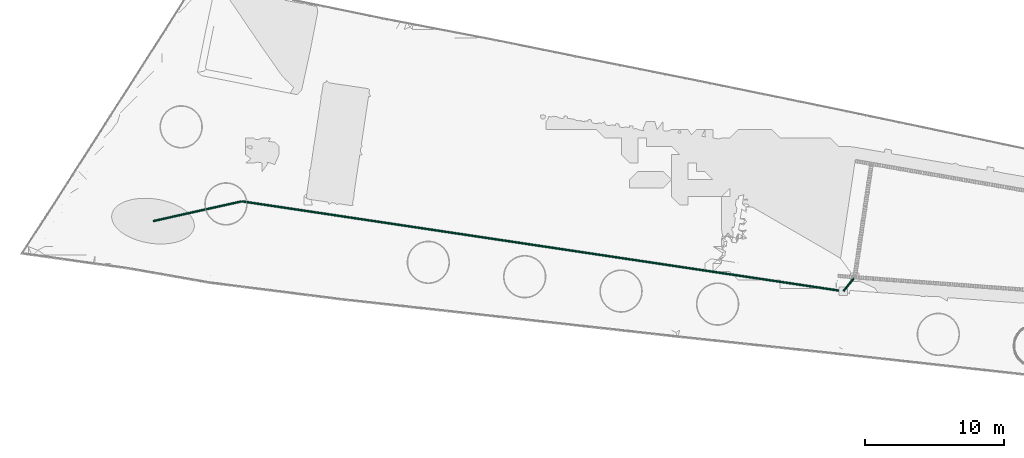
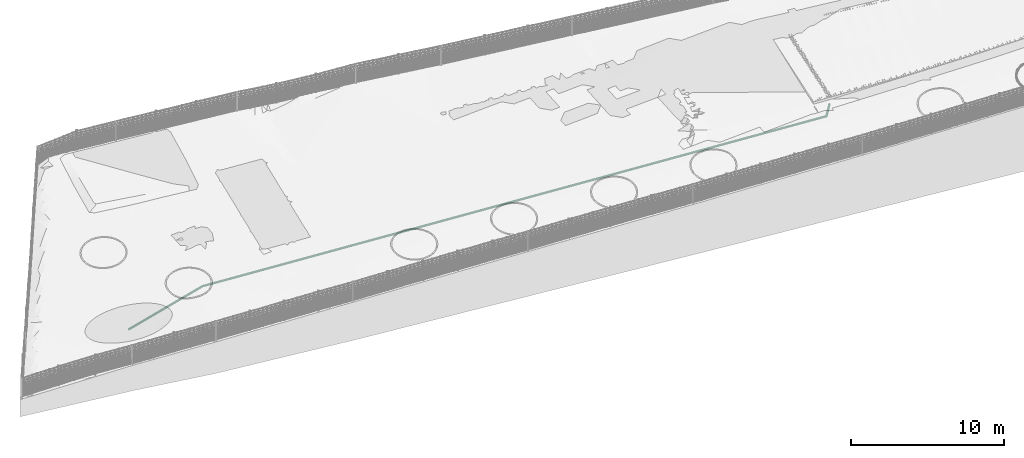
# Not in any storey, part 57 of 72: 3 pipe segments.
"""IFC4 model written with IfcOpenShell, lengths in metres."""

from ifc_helpers import new_model, si_unit, direction, frame, origin_with_axes, place, context, subcontext, project, spatial, circle, extrude, material, material_profile, profile_set, profile_usage, type_object, element, save


model = new_model("IFC4")

# Units and contexts
model_context = context("Model", 3, precision=1e-05, world=origin_with_axes(), true_north=direction((0.0, 1.0)))
body_context = subcontext(model_context, "Body", "Model", "MODEL_VIEW")
ifc_project = project(units=[si_unit("VOLUMEUNIT", "CUBIC_METRE"), si_unit("LENGTHUNIT", "METRE"), si_unit("AREAUNIT", "SQUARE_METRE")], contexts=[model_context])

# Site
site_placement = place(None, origin_with_axes())
site = spatial("IfcSite", under=ifc_project, at=site_placement, Name="Lares · Rua das Mercês · artigo 4771")

# Pipe segments
ifc_material = material(Name="Caleiras · betão", Category="concrete")
ifc_material_profile = material_profile(ifc_material, circle(Radius=0.08))
ifc_profile_set = profile_set([ifc_material_profile], Name="D0.16")
ifc_profile_usage_1 = profile_usage(ifc_profile_set)
pipe_segment_type = type_object("IfcPipeSegmentType", Name="D0.16 / drain", PredefinedType="NOTDEFINED", material=ifc_profile_set)
pipe_segment_1_placement = place(site_placement, frame((47.8613163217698, 3.24236823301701, 13.8860142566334), z_axis=(-0.625775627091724, -0.778214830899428, -0.0527877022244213), x_axis=(-0.779301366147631, 0.626649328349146, 0.0)))
element("IfcPipeSegment", 1, at=pipe_segment_1_placement, inside=site, type_object=pipe_segment_type, material=ifc_profile_usage_1, Name="Acesso · coletor separado da cisterna", context=body_context, shape_type="SweptSolid", body=[
    extrude(circle(Radius=0.08), origin_with_axes(), (0.0, 0.0, 1.0), 1.29965263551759),
])
ifc_profile_usage_2 = profile_usage(ifc_profile_set)
pipe_segment_2_placement = place(site_placement, frame((47.0480253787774, 2.23095927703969, 13.8174085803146), z_axis=(-0.98763693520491, 0.147603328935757, -0.0527877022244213), x_axis=(0.147809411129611, 0.989015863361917, 0.0)))
element("IfcPipeSegment", 2, at=pipe_segment_2_placement, inside=site, type_object=pipe_segment_type, material=ifc_profile_usage_2, Name="Acesso · coletor separado da cisterna", context=body_context, shape_type="SweptSolid", body=[
    extrude(circle(Radius=0.08), origin_with_axes(), (0.0, 0.0, 1.0), 43.7610134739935),
])
ifc_profile_usage_3 = profile_usage(ifc_profile_set)
pipe_segment_3_placement = place(site_placement, frame((3.82803214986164, 8.69023054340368, 11.5073652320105), z_axis=(-0.974673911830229, -0.217311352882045, -0.0527877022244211), x_axis=(-0.217614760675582, 0.976034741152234, 0.0)))
element("IfcPipeSegment", 3, at=pipe_segment_3_placement, inside=site, type_object=pipe_segment_type, material=ifc_profile_usage_3, Name="Acesso · coletor separado da cisterna", context=body_context, shape_type="SweptSolid", body=[
    extrude(circle(Radius=0.08), origin_with_axes(), (0.0, 0.0, 1.0), 6.54613692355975),
])

save(model, "model.ifc")
